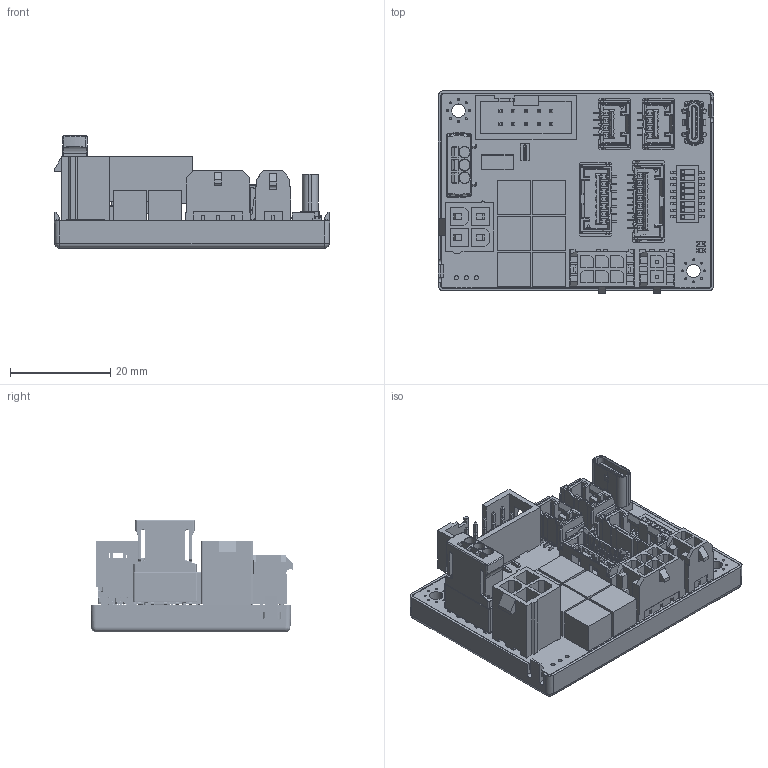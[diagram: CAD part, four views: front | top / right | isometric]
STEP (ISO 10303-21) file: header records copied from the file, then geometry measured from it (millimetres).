
FILE_DESCRIPTION((''),'2;1');
FILE_NAME('903533_ESCON2_COMPACT_60-5','2026-01-20T16:28:57',('MMAGPAHU'),(''),'CREO PARAMETRIC BY PTC INC, 2022484','CREO PARAMETRIC BY PTC INC, 2022484','');
FILE_SCHEMA(('CONFIG_CONTROL_DESIGN','SHAPE_APPEARANCE_LAYERS_GROUPS'));
Products named in the file (1): 903533_ESCON2_COMPACT_60-5
Bounding box: 55.06 x 40.48 x 22.43 mm (x, y, z)
Volume: 12556.9 mm3; surface area: 23419.6 mm2
Topology: 10 solids, 10 shells, 8259 faces, 24049 edges, 15306 vertices
Faces by surface type: plane 5948, cylinder 1611, sphere 430, torus 134, bspline 66, cone 51, extrusion 19
Entity records: 269718 total; most frequent: CARTESIAN_POINT 51630, ORIENTED_EDGE 47022, DIRECTION 43190, EDGE_CURVE 23511, VECTOR 18788, LINE 18769, VERTEX_POINT 15300, AXIS2_PLACEMENT_3D 12201
